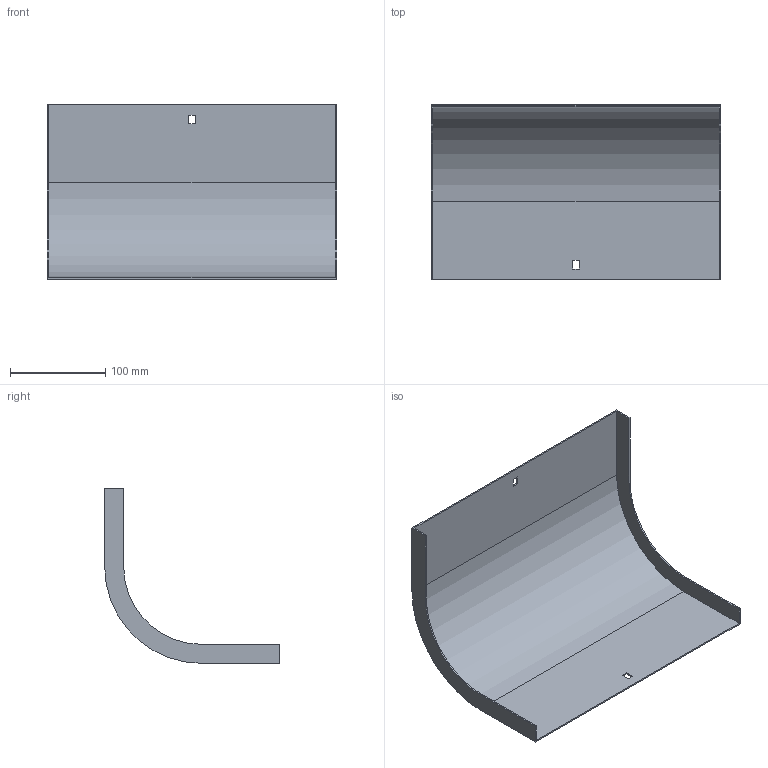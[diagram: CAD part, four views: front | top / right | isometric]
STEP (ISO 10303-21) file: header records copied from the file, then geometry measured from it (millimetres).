
FILE_DESCRIPTION (( 'STEP AP214' ), '1' );
FILE_NAME ('33G1B300.step', '2025-02-21T12:44:25', ( '' ), ( '' ), 'SwSTEP 2.0', 'SolidWorks 2023', '' );
FILE_SCHEMA (( 'AUTOMOTIVE_DESIGN' ));
Length unit declared in the file: millimetre
Products named in the file (1): 33G1B300
Bounding box: 304 x 183.5 x 183.5 mm (x, y, z)
Volume: 163787.5 mm3; surface area: 220379 mm2
Topology: 1 solids, 1 shells, 26 faces, 72 edges, 48 vertices
Faces by surface type: plane 22, cylinder 4
Entity records: 855 total; most frequent: CARTESIAN_POINT 147, ORIENTED_EDGE 144, DIRECTION 134, EDGE_CURVE 72, VECTOR 64, LINE 64, VERTEX_POINT 48, AXIS2_PLACEMENT_3D 35
